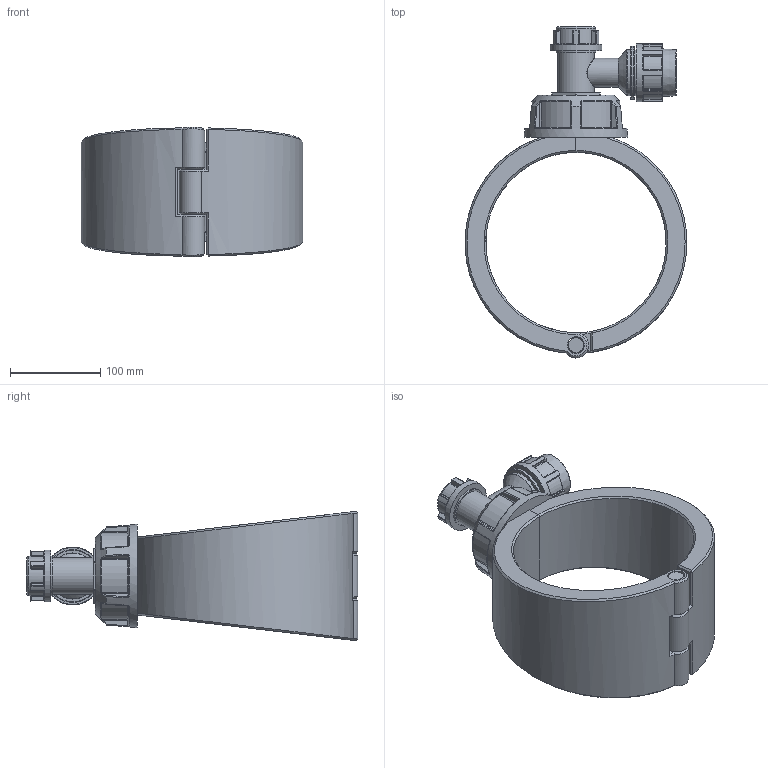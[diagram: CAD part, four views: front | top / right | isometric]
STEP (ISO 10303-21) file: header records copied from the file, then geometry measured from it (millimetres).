
FILE_DESCRIPTION(/* description */ ('Plassadle Tapper 200x32'),/* implementation_level */ '2;1');
FILE_NAME(/* name */ 'C:\Dropbox\KIMPROJECTS-Inventor 2019\99-16-3568-Processing\Mechanical Fittings\16310\stp\163100200032.stp',/* time_stamp */ '2024-08-28T10:40:19+02:00',/* author */ ('comp2'),/* organization */ (''),/* preprocessor_version */ 'ST-DEVELOPER v17.2',/* originating_system */ 'Autodesk Inventor 2019',/* authorisation */ '');
FILE_SCHEMA (('AUTOMOTIVE_DESIGN { 1 0 10303 214 3 1 1 }'));
Length unit declared in the file: millimetre
Products named in the file (1): 163100200032
Bounding box: 245.94 x 368 x 143.53 mm (x, y, z)
Volume: 2455005.8 mm3; surface area: 283172.2 mm2
Topology: 4 solids, 4 shells, 519 faces, 1253 edges, 754 vertices
Faces by surface type: cylinder 184, plane 109, bspline 87, torus 83, sphere 40, cone 16
Full cylindrical faces by diameter (mm): 16.72 x1, 18.72 x3, 32 x2, 34.5 x1, 40.25 x1, 44.25 x2, 51.2 x2, 57.5 x1, 58.414 x1, 64 x1
Entity records: 18800 total; most frequent: CARTESIAN_POINT 7047, ORIENTED_EDGE 2508, DIRECTION 2426, EDGE_CURVE 1254, AXIS2_PLACEMENT_3D 1028, VERTEX_POINT 755, CIRCLE 563, EDGE_LOOP 537
